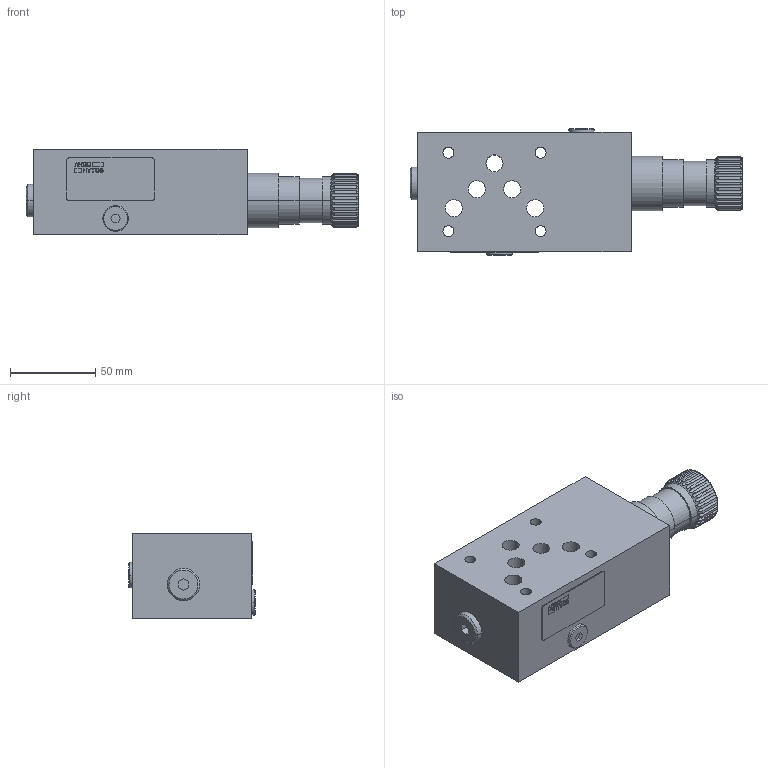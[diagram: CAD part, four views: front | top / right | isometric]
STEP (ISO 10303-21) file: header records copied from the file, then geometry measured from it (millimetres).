
FILE_DESCRIPTION((''),'2;1');
FILE_NAME('VRN2_10_MB','2011-03-15T',('paro'),(''),'PRO/ENGINEER BY PARAMETRIC TECHNOLOGY CORPORATION, 2010180','PRO/ENGINEER BY PARAMETRIC TECHNOLOGY CORPORATION, 2010180','');
FILE_SCHEMA(('CONFIG_CONTROL_DESIGN'));
Length unit declared in the file: millimetre
Products named in the file (1): VRN2_10_MB
Bounding box: 194.5 x 74 x 50 mm (x, y, z)
Volume: 456634.1 mm3; surface area: 56228.6 mm2
Topology: 1 solids, 1 shells, 482 faces, 1366 edges, 919 vertices
Faces by surface type: plane 332, cylinder 110, cone 40
Entity records: 16427 total; most frequent: CARTESIAN_POINT 3712, ORIENTED_EDGE 2724, DIRECTION 2510, EDGE_CURVE 1362, VECTOR 1004, LINE 1004, VERTEX_POINT 915, AXIS2_PLACEMENT_3D 753
